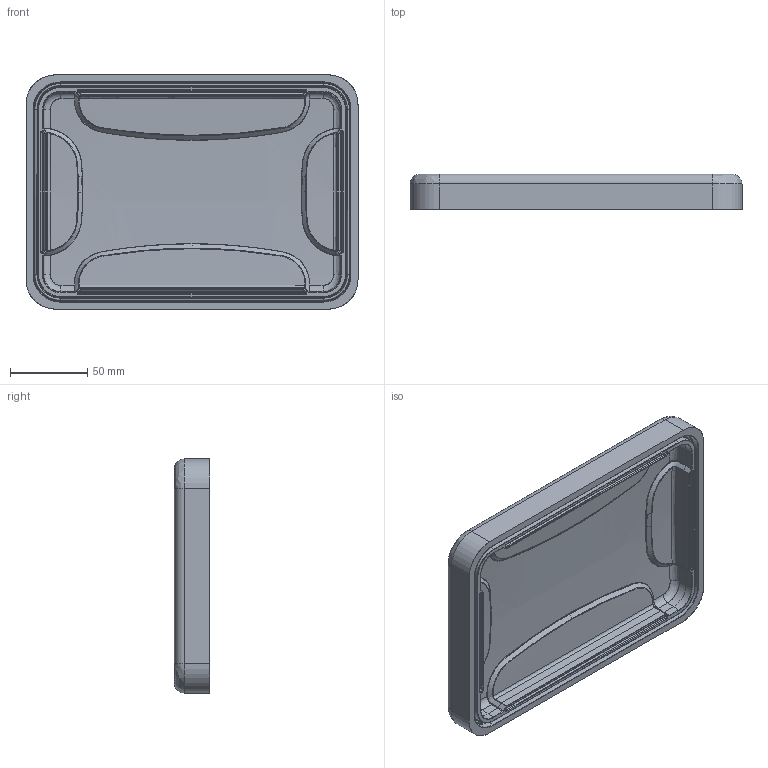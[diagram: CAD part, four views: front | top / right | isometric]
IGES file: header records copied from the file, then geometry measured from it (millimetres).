
Start section: SolidWorks IGES file using analytic representation for surfaces
Global section: file name: C:\Users\plouimet.NORADEV\Desktop\NANUK_903_Top_INNER SURFS_IGES.IGS; native system: SolidWorks 2014; preprocessor: SolidWorks 2014; author: plouimet; date: 140707.162017; units: inch
Bounding box: 215.17 x 22.86 x 151.8 mm (x, y, z)
Surface area: 99296.4 mm2 (no closed solid volume)
Topology: 0 solids, 0 shells, 767 faces, 10250 edges, 10250 vertices
Faces by surface type: bspline 646, revolution 121
